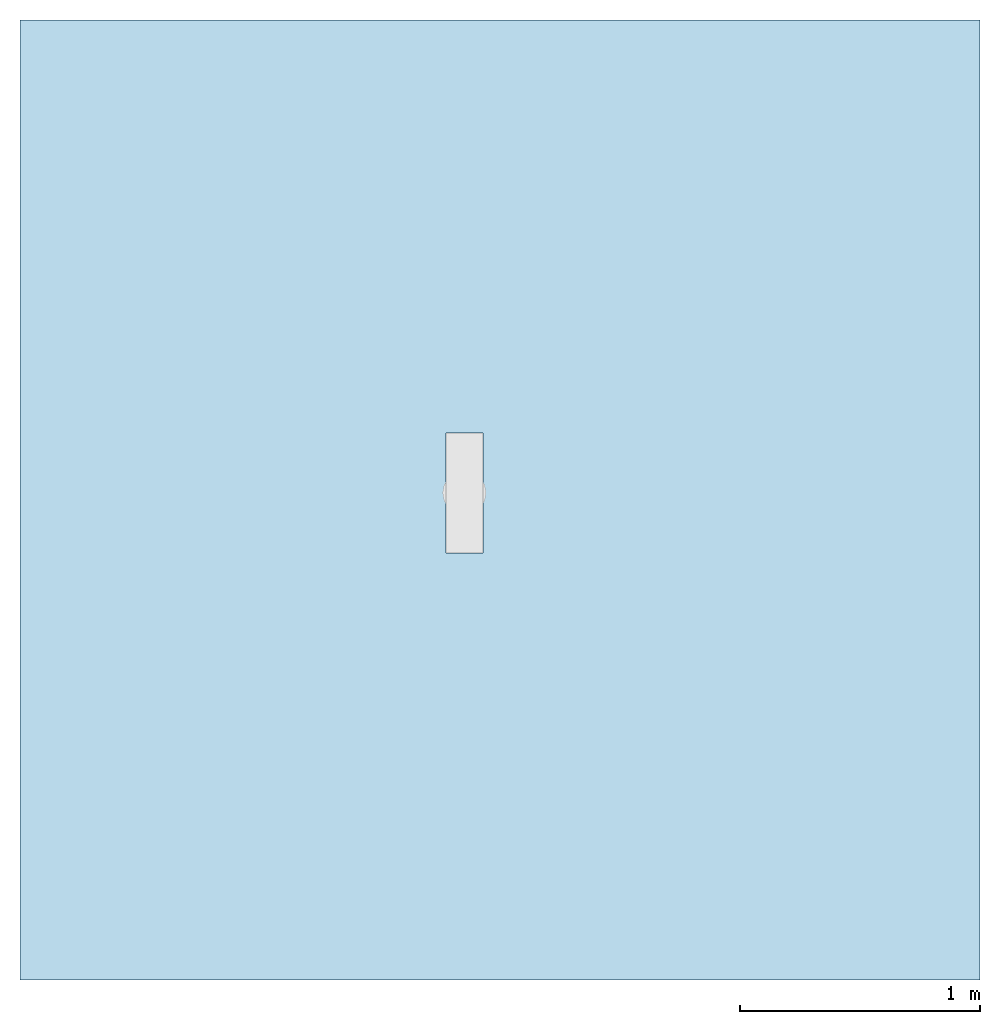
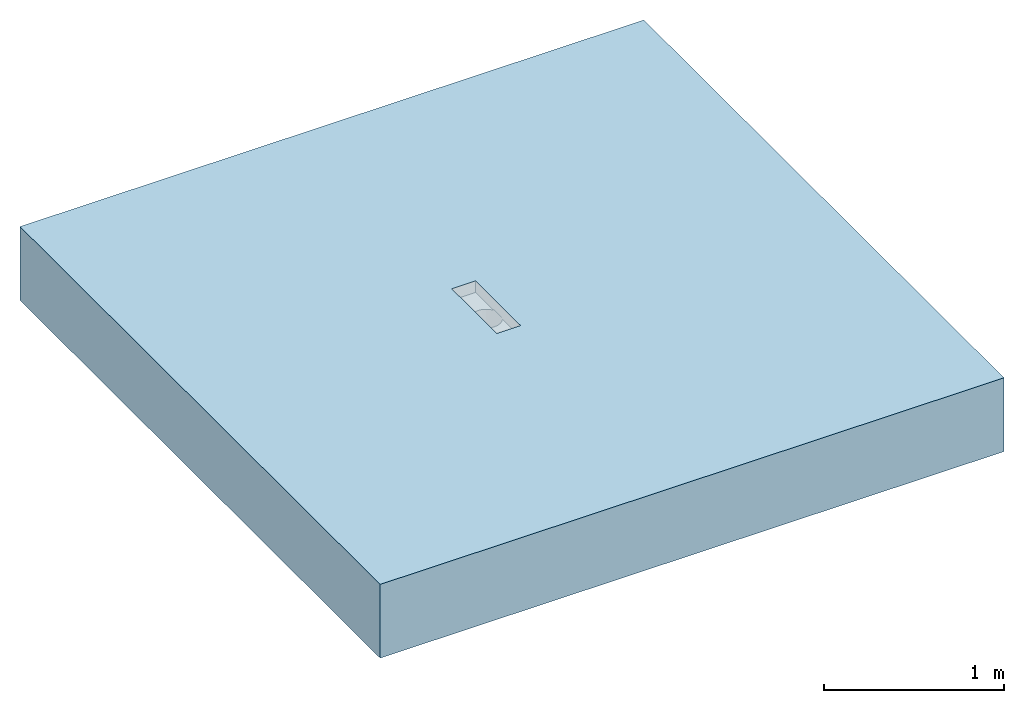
# One storey, incomplete: 1 slab, 1 opening.
"""IFC2X3 building model written with IfcOpenShell, lengths in millimetres."""

from ifc_helpers import new_model, entity, si_unit, converted_unit, direction, frame, frame_2d, origin, place, context, subcontext, project, spatial, rectangle, extrude, faceted_brep, material, layer, layer_set, layer_usage, element, save


model = new_model("IFC2X3")

# Units and contexts
model_context = context("Model", 3, precision=1e-06, world=origin(), true_north=direction((2.0, 6.12303176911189e-17, 1.0)))
context_of_model = context(None, 3, precision=1e-06, world=origin(), true_north=direction((2.0, 6.12303176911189e-17, 1.0)))
body_context = subcontext(model_context, "Body", "Model", "MODEL_VIEW")
ifc_project = project(units=[si_unit("LENGTHUNIT", "METRE", prefix="MILLI"), si_unit("AREAUNIT", "SQUARE_METRE", prefix="MILLI"), si_unit("VOLUMEUNIT", "CUBIC_METRE", prefix="MILLI"), converted_unit("PLANEANGLEUNIT", "DEGREE", entity("IfcRatioMeasure", 0.0174532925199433), si_unit("PLANEANGLEUNIT", "RADIAN"), dimensions=[0, 0, 0, 0, 0, 0, 0]), si_unit("TIMEUNIT", "SECOND")], contexts=[model_context, context_of_model])

# Site, building, storey
site_placement = place(None, origin())
site = spatial("IfcSite", under=ifc_project, at=site_placement, Name="Default", CompositionType="ELEMENT")
building_placement = place(site_placement, origin())
building = spatial("IfcBuilding", under=site, at=building_placement, CompositionType="ELEMENT")
storey_placement = place(building_placement, origin())
storey = spatial("IfcBuildingStorey", under=building, at=storey_placement, Name="Level 1", CompositionType="ELEMENT", Elevation=0.0)

# Slab, opening
ifc_material = material(Name="Concrete, Broom Finish")
ifc_layer = layer(ifc_material, 500.0)
ifc_layer_set = layer_set([ifc_layer], Name="Floor:Generic Floor - 500mm")
ifc_layer_usage = layer_usage(ifc_layer_set, "AXIS3", "POSITIVE", 0.0)
slab_placement = place(storey_placement, origin())
slab = element("IfcSlab", 1, at=slab_placement, inside=storey, material=ifc_layer_usage, Name="Floor:Generic Floor - 500mm", ObjectType="Floor:Generic Floor - 500mm", PredefinedType="FLOOR", context=body_context, shape_type="SweptSolid", body=[
    extrude(rectangle(XDim=4000.0, YDim=4000.0, at=frame_2d((0.0, 0.0), x_axis=(-1.0, 0.0))), frame((-419.114478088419, -735.273497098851, 0.0), z_axis=(0.0, 0.0, -1.0), x_axis=(-1.0, 0.0, 0.0)), (0.0, 0.0, 1.0), 500.0),
])
opening_placement = place(slab_placement, frame((-660.083679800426, -955.371403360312, -342.0)))
element("IfcOpeningElement", 2, at=opening_placement, cuts=slab, ObjectType="Recess", context=body_context, shape_type="Brep", body=[
    faceted_brep([(16.0952722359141, 500.0, 264.200000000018), (16.0952722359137, 299.282349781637, 264.200000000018), (30.641113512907, 316.653448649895, 264.200000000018), (169.095272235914, 500.0, 264.200000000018), (136.163070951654, 329.892721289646, 264.200000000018), (154.549430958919, 316.653448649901, 264.200000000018), (169.095272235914, 299.282349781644, 264.200000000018), (70.1145876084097, 338.179469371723, 264.200000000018), (49.0274735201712, 329.892721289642, 264.200000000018), (92.595272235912, 341.0, 264.200000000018), (115.075956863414, 338.179469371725, 264.200000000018), (92.595272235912, 159.0, 264.200000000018), (70.1145876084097, 161.820530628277, 264.200000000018), (16.0952722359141, 0.0, 264.200000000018), (49.0274735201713, 170.107278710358, 264.200000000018), (115.075956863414, 161.820530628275, 264.200000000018), (169.095272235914, 0.0, 264.200000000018), (136.163070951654, 170.107278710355, 264.200000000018), (30.641113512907, 183.346551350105, 264.200000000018), (16.0952722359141, 200.717650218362, 264.200000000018), (169.095272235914, 200.717650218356, 264.200000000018), (154.549430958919, 183.346551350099, 264.200000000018), (181.93744767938, 232.709086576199, 269.0), (177.04778664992, 216.106448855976, 269.0), (169.095272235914, 200.717650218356, 269.0), (169.095272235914, 299.282349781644, 269.0), (177.04778664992, 283.893551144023, 269.0), (181.93744767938, 267.2909134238, 269.0), (183.595272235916, 250.0, 269.0), (8.14072230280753, 216.111521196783, 269.0), (3.25334780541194, 232.707789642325, 269.0), (16.0952722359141, 200.717650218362, 269.0), (8.14072230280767, 283.888478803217, 269.0), (1.59527223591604, 250.0, 269.0), (3.25334780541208, 267.292210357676, 269.0), (16.0952722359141, 299.282349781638, 269.0), (169.095272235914, 0.0, 342.0), (16.0952722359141, 0.0, 342.0), (16.0952722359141, 500.0, 342.0), (169.095272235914, 500.0, 342.0), (92.5952722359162, 341.0, 0.0), (69.0427391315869, 337.899250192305, 0.0), (116.147805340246, 337.899250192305, 0.0), (138.095272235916, 328.808311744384, 0.0), (156.941989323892, 314.346717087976, 0.0), (171.4035839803, 295.5, 0.0), (13.786960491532, 204.5, 0.0), (13.7869604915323, 295.5, 0.0), (47.0952722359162, 328.808311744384, 0.0), (28.2485551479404, 314.346717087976, 0.0), (4.69602204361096, 273.55253310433, 0.0), (1.59527223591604, 250.0, 0.0), (180.494522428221, 273.552533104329, 0.0), (180.494522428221, 226.44746689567, 0.0), (183.595272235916, 250.0, 0.0), (156.941989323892, 185.653282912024, 0.0), (171.4035839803, 204.5, 0.0), (116.147805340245, 162.100749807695, 0.0), (138.095272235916, 171.191688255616, 0.0), (69.0427391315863, 162.100749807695, 0.0), (28.24855514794, 185.653282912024, 0.0), (4.69602204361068, 226.447466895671, 0.0), (47.0952722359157, 171.191688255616, 0.0), (92.5952722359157, 159.0, 0.0)], [[[0, 1, 2]], [[3, 4, 5]], [[3, 5, 6]], [[7, 0, 8]], [[2, 8, 0]], [[9, 0, 7]], [[3, 9, 10]], [[0, 9, 3]], [[4, 3, 10]], [[11, 12, 13]], [[14, 13, 12]], [[15, 11, 16]], [[13, 16, 11]], [[17, 15, 16]], [[13, 14, 18]], [[13, 18, 19]], [[16, 20, 21]], [[16, 21, 17]], [[22, 23, 24]], [[25, 22, 24]], [[26, 27, 28]], [[26, 22, 25]], [[28, 22, 26]], [[29, 30, 31]], [[32, 31, 30]], [[30, 33, 32]], [[32, 33, 34]], [[35, 31, 32]], [[13, 36, 16]], [[36, 13, 37]], [[3, 38, 0]], [[38, 3, 39]], [[39, 36, 37]], [[37, 38, 39]], [[13, 31, 37]], [[38, 37, 31]], [[31, 13, 19]], [[0, 38, 35]], [[31, 35, 38]], [[35, 1, 0]], [[24, 20, 16]], [[39, 24, 36]], [[16, 36, 24]], [[25, 3, 6]], [[24, 39, 25]], [[3, 25, 39]], [[40, 41, 42]], [[43, 42, 44]], [[41, 45, 42]], [[44, 42, 45]], [[46, 45, 47]], [[48, 49, 41]], [[47, 41, 49]], [[50, 51, 47]], [[45, 41, 47]], [[51, 46, 47]], [[46, 52, 45]], [[53, 54, 55]], [[56, 53, 55]], [[57, 58, 55]], [[59, 55, 54]], [[57, 55, 59]], [[46, 60, 54]], [[46, 51, 61]], [[62, 59, 60]], [[54, 60, 59]], [[59, 63, 57]], [[54, 52, 46]], [[61, 51, 30]], [[61, 29, 46]], [[14, 59, 62]], [[62, 60, 18]], [[60, 46, 19]], [[63, 59, 12]], [[33, 30, 51]], [[29, 19, 46]], [[29, 61, 30]], [[29, 31, 19]], [[18, 60, 19]], [[62, 18, 14]], [[14, 12, 59]], [[12, 11, 63]], [[15, 63, 11]], [[57, 63, 15]], [[57, 17, 58]], [[23, 53, 56]], [[56, 55, 20]], [[55, 58, 21]], [[54, 53, 22]], [[17, 57, 15]], [[21, 58, 17]], [[21, 20, 55]], [[23, 20, 24]], [[23, 56, 20]], [[53, 23, 22]], [[22, 28, 54]], [[45, 52, 26]], [[27, 52, 54]], [[4, 42, 43]], [[44, 5, 43]], [[6, 44, 45]], [[40, 42, 10]], [[25, 6, 26]], [[52, 27, 26]], [[27, 54, 28]], [[26, 6, 45]], [[5, 44, 6]], [[43, 5, 4]], [[4, 10, 42]], [[10, 9, 40]], [[7, 40, 9]], [[41, 40, 7]], [[41, 8, 48]], [[32, 50, 47]], [[47, 49, 1]], [[49, 48, 2]], [[51, 50, 34]], [[8, 41, 7]], [[2, 48, 8]], [[2, 1, 49]], [[32, 1, 35]], [[32, 47, 1]], [[50, 32, 34]], [[34, 33, 51]]]),
])

save(model, "model.ifc")
